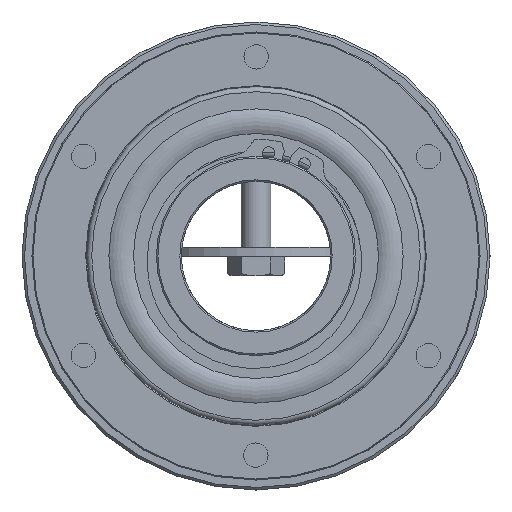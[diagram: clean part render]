
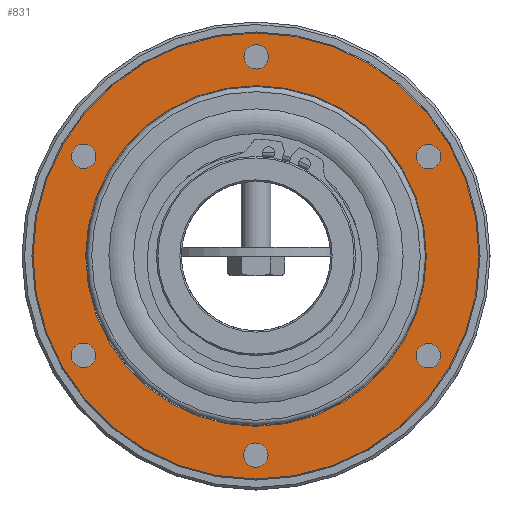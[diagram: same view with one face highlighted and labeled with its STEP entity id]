
A CAD part, left-side view. The second image highlights one B-rep face of the part: STEP entity #831.
In plain terms, the highlighted planar face has unit normal (-1, 0, 0).
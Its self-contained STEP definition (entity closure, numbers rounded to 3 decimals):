
#831 = ADVANCED_FACE( '', ( #1501, #1502, #1503, #1504, #1505, #1506, #1507, #1508 ), #1509, .F. );
#1501 = FACE_OUTER_BOUND( '', #2055, .T. );
#1502 = FACE_BOUND( '', #2056, .T. );
#1503 = FACE_BOUND( '', #2057, .T. );
#1504 = FACE_BOUND( '', #2058, .T. );
#1505 = FACE_BOUND( '', #2059, .T. );
#1506 = FACE_BOUND( '', #2060, .T. );
#1507 = FACE_BOUND( '', #2061, .T. );
#1508 = FACE_BOUND( '', #2062, .T. );
#1509 = PLANE( '', #2063 );
#2055 = EDGE_LOOP( '', ( #2850 ) );
#2056 = EDGE_LOOP( '', ( #2851 ) );
#2057 = EDGE_LOOP( '', ( #2852 ) );
#2058 = EDGE_LOOP( '', ( #2853 ) );
#2059 = EDGE_LOOP( '', ( #2854 ) );
#2060 = EDGE_LOOP( '', ( #2855 ) );
#2061 = EDGE_LOOP( '', ( #2856 ) );
#2062 = EDGE_LOOP( '', ( #2857 ) );
#2063 = AXIS2_PLACEMENT_3D( '', #2858, #2859, #2860 );
#2850 = ORIENTED_EDGE( '', *, *, #3596, .T. );
#2851 = ORIENTED_EDGE( '', *, *, #3597, .T. );
#2852 = ORIENTED_EDGE( '', *, *, #3598, .T. );
#2853 = ORIENTED_EDGE( '', *, *, #3599, .T. );
#2854 = ORIENTED_EDGE( '', *, *, #3600, .T. );
#2855 = ORIENTED_EDGE( '', *, *, #3601, .T. );
#2856 = ORIENTED_EDGE( '', *, *, #3602, .T. );
#2857 = ORIENTED_EDGE( '', *, *, #3603, .T. );
#2858 = CARTESIAN_POINT( '', ( -15.2, 45., 0. ) );
#2859 = DIRECTION( '', ( 1., 0., 0. ) );
#2860 = DIRECTION( '', ( 0., 1., 0. ) );
#3596 = EDGE_CURVE( '', #4055, #4055, #4056, .T. );
#3597 = EDGE_CURVE( '', #4057, #4057, #4058, .T. );
#3598 = EDGE_CURVE( '', #4059, #4059, #4060, .T. );
#3599 = EDGE_CURVE( '', #4061, #4061, #4062, .T. );
#3600 = EDGE_CURVE( '', #4063, #4063, #4064, .T. );
#3601 = EDGE_CURVE( '', #4065, #4065, #4066, .T. );
#3602 = EDGE_CURVE( '', #4067, #4067, #4068, .T. );
#3603 = EDGE_CURVE( '', #4069, #4069, #4070, .T. );
#4055 = VERTEX_POINT( '', #4753 );
#4056 = CIRCLE( '', #4754, 44.8 );
#4057 = VERTEX_POINT( '', #4755 );
#4058 = CIRCLE( '', #4756, 34.2 );
#4059 = VERTEX_POINT( '', #4757 );
#4060 = CIRCLE( '', #4758, 2.459 );
#4061 = VERTEX_POINT( '', #4759 );
#4062 = CIRCLE( '', #4760, 2.459 );
#4063 = VERTEX_POINT( '', #4761 );
#4064 = CIRCLE( '', #4762, 2.459 );
#4065 = VERTEX_POINT( '', #4763 );
#4066 = CIRCLE( '', #4764, 2.459 );
#4067 = VERTEX_POINT( '', #4765 );
#4068 = CIRCLE( '', #4766, 2.459 );
#4069 = VERTEX_POINT( '', #4767 );
#4070 = CIRCLE( '', #4768, 2.459 );
#4753 = CARTESIAN_POINT( '', ( -15.2, 0., -44.8 ) );
#4754 = AXIS2_PLACEMENT_3D( '', #5249, #5250, #5251 );
#4755 = CARTESIAN_POINT( '', ( -15.2, 0., -34.2 ) );
#4756 = AXIS2_PLACEMENT_3D( '', #5252, #5253, #5254 );
#4757 = CARTESIAN_POINT( '', ( -15.2, 36.77, 21.229 ) );
#4758 = AXIS2_PLACEMENT_3D( '', #5255, #5256, #5257 );
#4759 = CARTESIAN_POINT( '', ( -15.2, 36.77, -21.229 ) );
#4760 = AXIS2_PLACEMENT_3D( '', #5258, #5259, #5260 );
#4761 = CARTESIAN_POINT( '', ( -15.2, 0., -42.459 ) );
#4762 = AXIS2_PLACEMENT_3D( '', #5261, #5262, #5263 );
#4763 = CARTESIAN_POINT( '', ( -15.2, -36.77, -21.229 ) );
#4764 = AXIS2_PLACEMENT_3D( '', #5264, #5265, #5266 );
#4765 = CARTESIAN_POINT( '', ( -15.2, -36.77, 21.229 ) );
#4766 = AXIS2_PLACEMENT_3D( '', #5267, #5268, #5269 );
#4767 = CARTESIAN_POINT( '', ( -15.2, 0., 42.459 ) );
#4768 = AXIS2_PLACEMENT_3D( '', #5270, #5271, #5272 );
#5249 = CARTESIAN_POINT( '', ( -15.2, 0., 0. ) );
#5250 = DIRECTION( '', ( -1., 0., 0. ) );
#5251 = DIRECTION( '', ( 0., 0., -1. ) );
#5252 = CARTESIAN_POINT( '', ( -15.2, 0., 0. ) );
#5253 = DIRECTION( '', ( 1., 0., 0. ) );
#5254 = DIRECTION( '', ( 0., 0., -1. ) );
#5255 = CARTESIAN_POINT( '', ( -15.2, 34.641, 20. ) );
#5256 = DIRECTION( '', ( 1., 0., 0. ) );
#5257 = DIRECTION( '', ( 0., 0.866, 0.5 ) );
#5258 = CARTESIAN_POINT( '', ( -15.2, 34.641, -20. ) );
#5259 = DIRECTION( '', ( 1., 0., 0. ) );
#5260 = DIRECTION( '', ( 0., 0.866, -0.5 ) );
#5261 = CARTESIAN_POINT( '', ( -15.2, 0., -40. ) );
#5262 = DIRECTION( '', ( 1., 0., 0. ) );
#5263 = DIRECTION( '', ( 0., 0., -1. ) );
#5264 = CARTESIAN_POINT( '', ( -15.2, -34.641, -20. ) );
#5265 = DIRECTION( '', ( 1., 0., 0. ) );
#5266 = DIRECTION( '', ( 0., -0.866, -0.5 ) );
#5267 = CARTESIAN_POINT( '', ( -15.2, -34.641, 20. ) );
#5268 = DIRECTION( '', ( 1., 0., 0. ) );
#5269 = DIRECTION( '', ( 0., -0.866, 0.5 ) );
#5270 = CARTESIAN_POINT( '', ( -15.2, 0., 40. ) );
#5271 = DIRECTION( '', ( 1., 0., 0. ) );
#5272 = DIRECTION( '', ( 0., 0., 1. ) );
